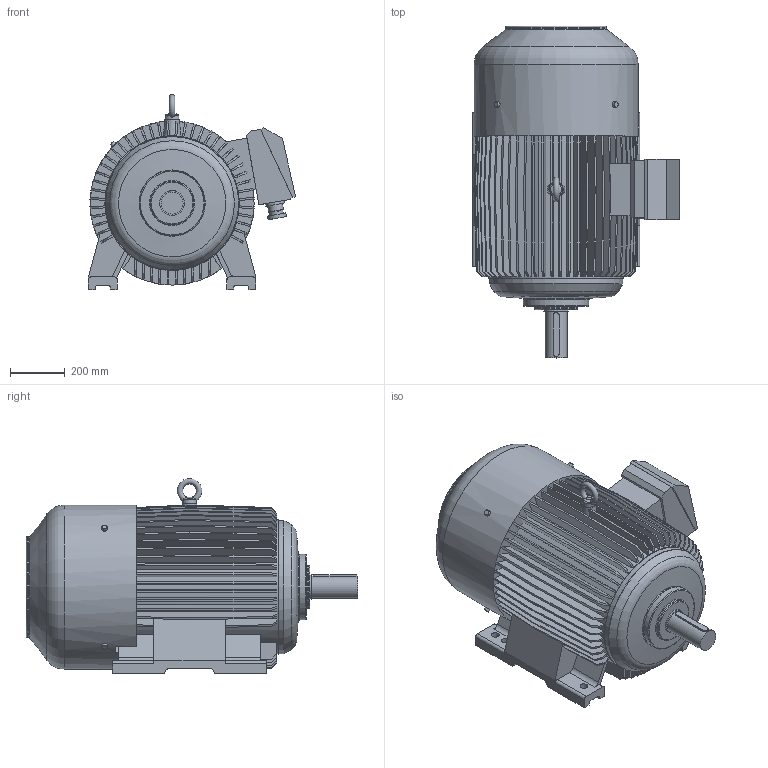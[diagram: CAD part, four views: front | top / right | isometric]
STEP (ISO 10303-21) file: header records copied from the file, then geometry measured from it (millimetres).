
FILE_DESCRIPTION(/* description */ ('Unknown'),/* implementation_level */ '2;1');
FILE_NAME(/* name */ '2Sg 315 S_M4-12',/* time_stamp */ '2016-09-28T12:38:23+02:00',/* author */ ('Unknown'),/* organization */ ('Unknown'),/* preprocessor_version */ 'ST-DEVELOPER v16',/* originating_system */ 'DEX',/* authorisation */ $);
FILE_SCHEMA (('AUTOMOTIVE_DESIGN {1 0 10303 214 3 1 1}'));
Length unit declared in the file: millimetre
Products named in the file (1): 2Sg 315 S_M4-12
Bounding box: 755 x 1210 x 710.99 mm (x, y, z)
Volume: 245248700.5 mm3; surface area: 5298866.2 mm2
Topology: 3 solids, 3 shells, 509 faces, 1444 edges, 959 vertices
Faces by surface type: plane 420, cylinder 71, torus 12, cone 6
Full cylindrical faces by diameter (mm): 20 x4, 28 x6, 38.722 x2, 48.628 x2, 55.029 x2, 67.566 x2, 68.767 x2, 80 x1, 90 x1, 157.917 x1, 238.53 x1, 367.437 x1, 486 x1, 490 x1, 598 x1
Entity records: 19361 total; most frequent: CARTESIAN_POINT 6141, ORIENTED_EDGE 2770, DIRECTION 2633, EDGE_CURVE 1385, LINE 1085, VECTOR 1085, VERTEX_POINT 944, AXIS2_PLACEMENT_3D 774
